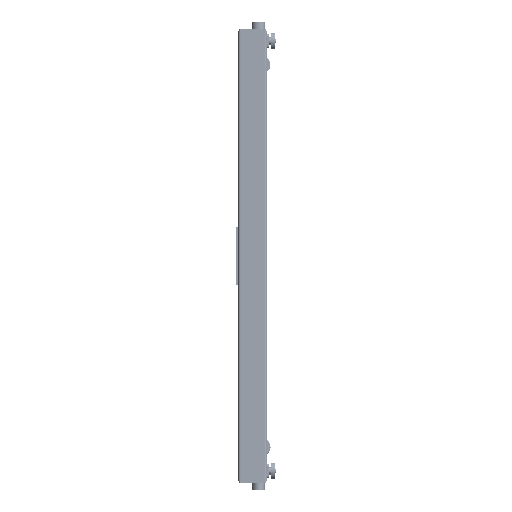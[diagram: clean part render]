
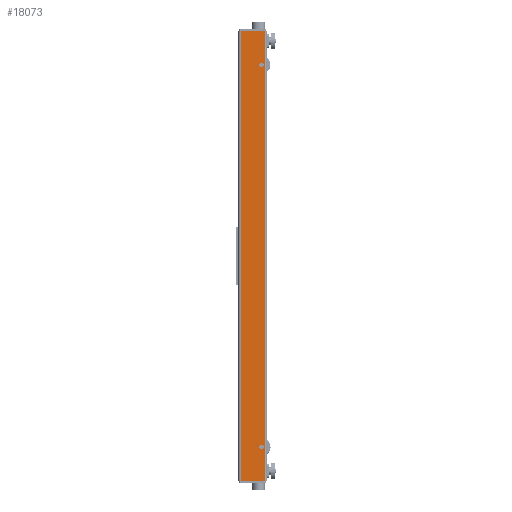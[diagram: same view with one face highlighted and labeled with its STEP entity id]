
A CAD part, left-side view. The second image highlights one B-rep face of the part: STEP entity #18073.
In plain terms, the highlighted planar face has unit normal (-1, 0, 0).
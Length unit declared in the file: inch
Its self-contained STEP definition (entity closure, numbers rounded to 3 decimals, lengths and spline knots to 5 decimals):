
#2220 = ORIENTED_EDGE ( 'NONE', *, *, #52763, .F. ) ;
#2504 = AXIS2_PLACEMENT_3D ( 'NONE', #33657, #108642, #79832 ) ;
#3255 = CARTESIAN_POINT ( 'NONE',  ( 0., 0.5, 47.0625 ) ) ;
#3552 = ORIENTED_EDGE ( 'NONE', *, *, #56556, .T. ) ;
#4027 = CARTESIAN_POINT ( 'NONE',  ( 0., 0.6525, 40.0005 ) ) ;
#5936 = VERTEX_POINT ( 'NONE', #57895 ) ;
#6432 = VECTOR ( 'NONE', #104818, 39.37008 ) ;
#8124 = EDGE_CURVE ( 'NONE', #111755, #65232, #72420, .T. ) ;
#8460 = VECTOR ( 'NONE', #38211, 39.37008 ) ;
#11763 = DIRECTION ( 'NONE',  ( 0., 1., 0. ) ) ;
#13430 = CARTESIAN_POINT ( 'NONE',  ( 0., 1.145, -40.0005 ) ) ;
#18073 = ADVANCED_FACE ( 'NONE', ( #22556, #57371, #95194 ), #76592, .F. ) ;
#18196 = EDGE_LOOP ( 'NONE', ( #64912, #65534 ) ) ;
#18269 = ORIENTED_EDGE ( 'NONE', *, *, #84144, .T. ) ;
#22545 = LINE ( 'NONE', #68150, #6432 ) ;
#22556 = FACE_BOUND ( 'NONE', #18196, .T. ) ;
#23032 = DIRECTION ( 'NONE',  ( 1., 0., 0. ) ) ;
#23937 = CIRCLE ( 'NONE', #77561, 0.4925 ) ;
#28424 = CARTESIAN_POINT ( 'NONE',  ( 0., 0.5, 47.0625 ) ) ;
#33527 = CARTESIAN_POINT ( 'NONE',  ( 0., 1.145, -40.0005 ) ) ;
#33657 = CARTESIAN_POINT ( 'NONE',  ( 0., 1.145, 40.0005 ) ) ;
#34657 = DIRECTION ( 'NONE',  ( 0., 0., -1. ) ) ;
#38211 = DIRECTION ( 'NONE',  ( 0., -1., 0. ) ) ;
#39562 = CARTESIAN_POINT ( 'NONE',  ( 0., 5.5, 47.0625 ) ) ;
#40900 = CIRCLE ( 'NONE', #2504, 0.4925 ) ;
#43648 = ORIENTED_EDGE ( 'NONE', *, *, #8124, .T. ) ;
#47199 = CARTESIAN_POINT ( 'NONE',  ( 0., 0.5, -47.0625 ) ) ;
#47623 = VERTEX_POINT ( 'NONE', #54483 ) ;
#50950 = ORIENTED_EDGE ( 'NONE', *, *, #84516, .F. ) ;
#51084 = DIRECTION ( 'NONE',  ( 1., 0., 0. ) ) ;
#51203 = DIRECTION ( 'NONE',  ( 0., 1., 0. ) ) ;
#51740 = CIRCLE ( 'NONE', #97789, 0.4925 ) ;
#52763 = EDGE_CURVE ( 'NONE', #109895, #95828, #22545, .T. ) ;
#54483 = CARTESIAN_POINT ( 'NONE',  ( 0., 0.6525, -40.0005 ) ) ;
#54698 = VERTEX_POINT ( 'NONE', #81741 ) ;
#55183 = VECTOR ( 'NONE', #34657, 39.37008 ) ;
#56118 = EDGE_CURVE ( 'NONE', #65232, #95828, #103641, .T. ) ;
#56556 = EDGE_CURVE ( 'NONE', #47623, #5936, #23937, .T. ) ;
#56989 = EDGE_LOOP ( 'NONE', ( #90825, #2220, #50950, #43648 ) ) ;
#57371 = FACE_BOUND ( 'NONE', #57508, .T. ) ;
#57508 = EDGE_LOOP ( 'NONE', ( #18269, #3552 ) ) ;
#57895 = CARTESIAN_POINT ( 'NONE',  ( 0., 1.6375, -40.0005 ) ) ;
#64912 = ORIENTED_EDGE ( 'NONE', *, *, #75014, .T. ) ;
#65020 = CARTESIAN_POINT ( 'NONE',  ( 0., 5.5, -47.0625 ) ) ;
#65232 = VERTEX_POINT ( 'NONE', #65020 ) ;
#65534 = ORIENTED_EDGE ( 'NONE', *, *, #82832, .T. ) ;
#68150 = CARTESIAN_POINT ( 'NONE',  ( 0., 0.5, 47.0625 ) ) ;
#68743 = DIRECTION ( 'NONE',  ( 1., 0., 0. ) ) ;
#69757 = CIRCLE ( 'NONE', #71712, 0.4925 ) ;
#71712 = AXIS2_PLACEMENT_3D ( 'NONE', #33527, #106181, #118145 ) ;
#72420 = LINE ( 'NONE', #90442, #55183 ) ;
#75014 = EDGE_CURVE ( 'NONE', #54698, #79400, #51740, .T. ) ;
#76592 = PLANE ( 'NONE',  #103648 ) ;
#77532 = CARTESIAN_POINT ( 'NONE',  ( 0., 1.145, 40.0005 ) ) ;
#77561 = AXIS2_PLACEMENT_3D ( 'NONE', #13430, #23032, #51203 ) ;
#79400 = VERTEX_POINT ( 'NONE', #4027 ) ;
#79832 = DIRECTION ( 'NONE',  ( 0., 1., 0. ) ) ;
#80395 = CARTESIAN_POINT ( 'NONE',  ( 0., 0.5, -47.0625 ) ) ;
#81639 = DIRECTION ( 'NONE',  ( 0., 1., 0. ) ) ;
#81741 = CARTESIAN_POINT ( 'NONE',  ( 0., 1.6375, 40.0005 ) ) ;
#82832 = EDGE_CURVE ( 'NONE', #79400, #54698, #40900, .T. ) ;
#84144 = EDGE_CURVE ( 'NONE', #5936, #47623, #69757, .T. ) ;
#84308 = LINE ( 'NONE', #3255, #110062 ) ;
#84516 = EDGE_CURVE ( 'NONE', #111755, #109895, #84308, .T. ) ;
#90442 = CARTESIAN_POINT ( 'NONE',  ( 0., 5.5, 47.0625 ) ) ;
#90825 = ORIENTED_EDGE ( 'NONE', *, *, #56118, .T. ) ;
#94497 = DIRECTION ( 'NONE',  ( 0., -1., 0. ) ) ;
#95194 = FACE_OUTER_BOUND ( 'NONE', #56989, .T. ) ;
#95791 = CARTESIAN_POINT ( 'NONE',  ( 0., 0.5, 47.0625 ) ) ;
#95828 = VERTEX_POINT ( 'NONE', #80395 ) ;
#97789 = AXIS2_PLACEMENT_3D ( 'NONE', #77532, #51084, #81639 ) ;
#103641 = LINE ( 'NONE', #47199, #8460 ) ;
#103648 = AXIS2_PLACEMENT_3D ( 'NONE', #95791, #68743, #11763 ) ;
#104818 = DIRECTION ( 'NONE',  ( 0., 0., -1. ) ) ;
#106181 = DIRECTION ( 'NONE',  ( 1., 0., 0. ) ) ;
#108642 = DIRECTION ( 'NONE',  ( 1., 0., 0. ) ) ;
#109895 = VERTEX_POINT ( 'NONE', #28424 ) ;
#110062 = VECTOR ( 'NONE', #94497, 39.37008 ) ;
#111755 = VERTEX_POINT ( 'NONE', #39562 ) ;
#118145 = DIRECTION ( 'NONE',  ( 0., 1., 0. ) ) ;
